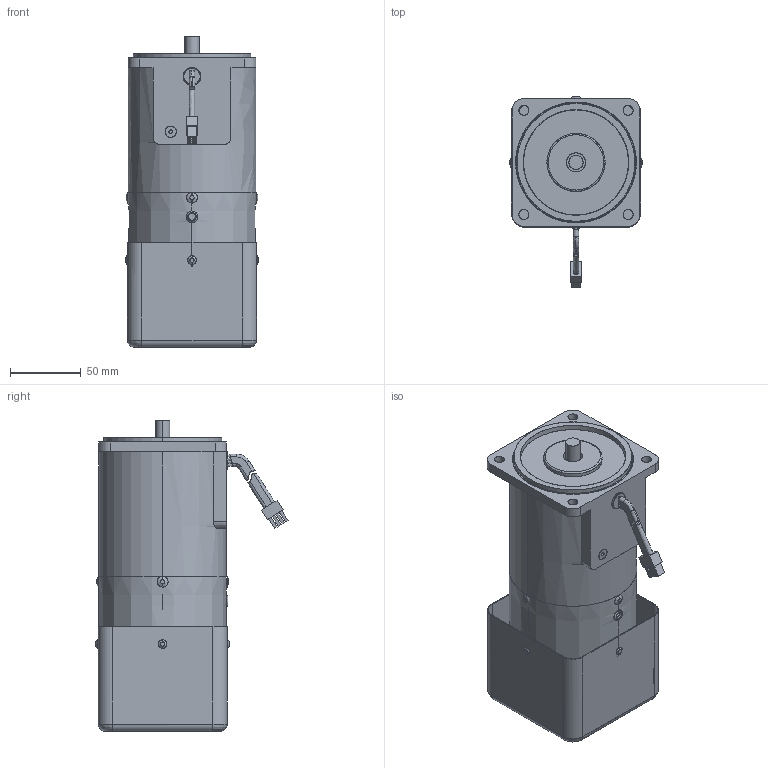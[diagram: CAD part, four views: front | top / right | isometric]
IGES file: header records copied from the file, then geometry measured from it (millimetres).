
Start section: SolidWorks IGES file using analytic representation for surfaces
Global section: file name: \\楷备家烹钦辑滚\data (D)\档搁 枚\权其捞瘤 档搁\9. SPEED BRAKE\90\60W\(9-59) 9SBDG∴-60F2W.IGS; native system: SolidWorks 2007; preprocessor: SolidWorks 2007; author: user; date: 150723.090237; units: millimetre
Bounding box: 94 x 135.4 x 219 mm (x, y, z)
Surface area: 210398.6 mm2 (no closed solid volume)
Topology: 0 solids, 0 shells, 462 faces, 9192 edges, 9192 vertices
Faces by surface type: revolution 286, bspline 176
